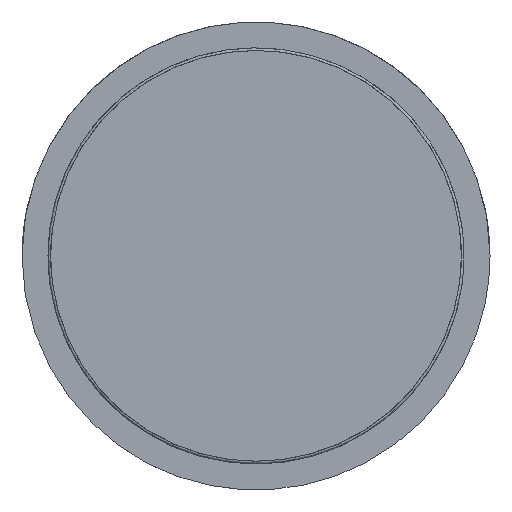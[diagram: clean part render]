
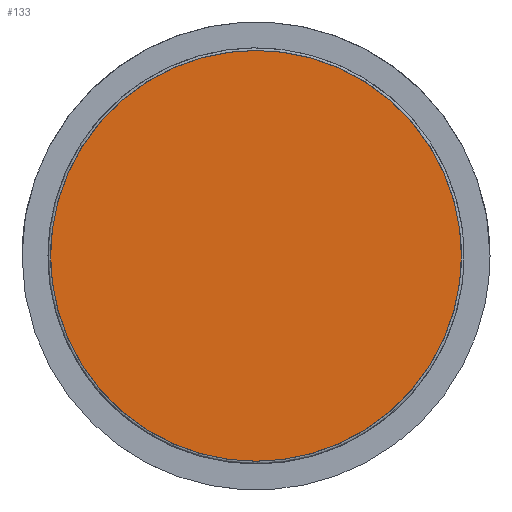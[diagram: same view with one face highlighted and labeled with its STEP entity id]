
A CAD part, top view. The second image highlights one B-rep face of the part: STEP entity #133.
In plain terms, the highlighted free-form (B-spline) face has degree [1, 1] with [2, 2] control points.
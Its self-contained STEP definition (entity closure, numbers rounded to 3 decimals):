
#20=B_SPLINE_SURFACE_WITH_KNOTS('',1,1,((#5417,#5418),(#5419,#5420)),
 .UNSPECIFIED.,.F.,.F.,.F.,(2,2),(2,2),(-81.6,81.6),(-81.6,81.6),
 .UNSPECIFIED.);
#133=ADVANCED_FACE('',(#230),#20,.T.);
#230=FACE_OUTER_BOUND('',#327,.T.);
#327=EDGE_LOOP('',(#651,#652));
#651=ORIENTED_EDGE('',*,*,#2223,.T.);
#652=ORIENTED_EDGE('',*,*,#2224,.T.);
#1027=PCURVE('',#20,#1403);
#1028=PCURVE('',#20,#1404);
#1029=PCURVE('',#2599,#1405);
#1057=PCURVE('',#2603,#1433);
#1403=DEFINITIONAL_REPRESENTATION('',(#2366),#6082);
#1404=DEFINITIONAL_REPRESENTATION('',(#2368),#6082);
#1405=DEFINITIONAL_REPRESENTATION('',(#1825),#6082);
#1433=DEFINITIONAL_REPRESENTATION('',(#1845),#6082);
#1825=B_SPLINE_CURVE_WITH_KNOTS('',1,(#5623,#5624),.UNSPECIFIED.,.F.,.F.,
(2,2),(-248.185,0.),.UNSPECIFIED.);
#1845=B_SPLINE_CURVE_WITH_KNOTS('',1,(#5779,#5780),.UNSPECIFIED.,.F.,.F.,
(2,2),(-496.371,-248.185),.UNSPECIFIED.);
#2035=SURFACE_CURVE('',#2365,(#1027,#1057),.PCURVE_S1.);
#2036=SURFACE_CURVE('',#2367,(#1028,#1029),.PCURVE_S1.);
#2223=EDGE_CURVE('',#2502,#2503,#2035,.T.);
#2224=EDGE_CURVE('',#2503,#2502,#2036,.T.);
#2365=(
BOUNDED_CURVE()
B_SPLINE_CURVE(2,(#5603,#5604,#5605,#5606,#5607),.UNSPECIFIED.,.F.,.F.)
B_SPLINE_CURVE_WITH_KNOTS((3,2,3),(-496.371,-372.278,
-248.185),.UNSPECIFIED.)
CURVE()
GEOMETRIC_REPRESENTATION_ITEM()
RATIONAL_B_SPLINE_CURVE((1.,0.707,1.,0.707,1.))
REPRESENTATION_ITEM('')
);
#2366=(
BOUNDED_CURVE()
B_SPLINE_CURVE(2,(#5608,#5609,#5610,#5611,#5612),.UNSPECIFIED.,.F.,.F.)
B_SPLINE_CURVE_WITH_KNOTS((3,2,3),(-496.371,-372.278,
-248.185),.UNSPECIFIED.)
CURVE()
GEOMETRIC_REPRESENTATION_ITEM()
RATIONAL_B_SPLINE_CURVE((1.,0.707,1.,0.707,1.))
REPRESENTATION_ITEM('')
);
#2367=(
BOUNDED_CURVE()
B_SPLINE_CURVE(2,(#5613,#5614,#5615,#5616,#5617),.UNSPECIFIED.,.F.,.F.)
B_SPLINE_CURVE_WITH_KNOTS((3,2,3),(-248.185,-124.093,
0.),.UNSPECIFIED.)
CURVE()
GEOMETRIC_REPRESENTATION_ITEM()
RATIONAL_B_SPLINE_CURVE((1.,0.707,1.,0.707,1.))
REPRESENTATION_ITEM('')
);
#2368=(
BOUNDED_CURVE()
B_SPLINE_CURVE(2,(#5618,#5619,#5620,#5621,#5622),.UNSPECIFIED.,.F.,.F.)
B_SPLINE_CURVE_WITH_KNOTS((3,2,3),(-248.185,-124.093,
0.),.UNSPECIFIED.)
CURVE()
GEOMETRIC_REPRESENTATION_ITEM()
RATIONAL_B_SPLINE_CURVE((1.,0.707,1.,0.707,1.))
REPRESENTATION_ITEM('')
);
#2502=VERTEX_POINT('',#5521);
#2503=VERTEX_POINT('',#5522);
#2599=(
BOUNDED_SURFACE()
B_SPLINE_SURFACE(2,2,((#5421,#5422,#5423),(#5424,#5425,#5426),(#5427,#5428,
#5429),(#5430,#5431,#5432),(#5433,#5434,#5435)),.UNSPECIFIED.,.F.,.F.,.F.)
B_SPLINE_SURFACE_WITH_KNOTS((3,2,3),(3,3),(0.,124.093,248.185),
(0.,1.571),.UNSPECIFIED.)
GEOMETRIC_REPRESENTATION_ITEM()
RATIONAL_B_SPLINE_SURFACE(((1.,0.707,1.),(0.707,
0.5,0.707),(1.,0.707,1.),(0.707,
0.5,0.707),(1.,0.707,1.)))
REPRESENTATION_ITEM('')
SURFACE()
);
#2603=(
BOUNDED_SURFACE()
B_SPLINE_SURFACE(2,2,((#5478,#5479,#5480),(#5481,#5482,#5483),(#5484,#5485,
#5486),(#5487,#5488,#5489),(#5490,#5491,#5492)),.UNSPECIFIED.,.F.,.F.,.F.)
B_SPLINE_SURFACE_WITH_KNOTS((3,2,3),(3,3),(248.185,372.278,
496.371),(0.,1.571),.UNSPECIFIED.)
GEOMETRIC_REPRESENTATION_ITEM()
RATIONAL_B_SPLINE_SURFACE(((1.,0.707,1.),(0.707,
0.5,0.707),(1.,0.707,1.),(0.707,
0.5,0.707),(1.,0.707,1.)))
REPRESENTATION_ITEM('')
SURFACE()
);
#5417=CARTESIAN_POINT('',(-81.6,-81.6,31.));
#5418=CARTESIAN_POINT('',(-81.6,81.6,31.));
#5419=CARTESIAN_POINT('',(81.6,-81.6,31.));
#5420=CARTESIAN_POINT('',(81.6,81.6,31.));
#5421=CARTESIAN_POINT('',(79.,0.,31.));
#5422=CARTESIAN_POINT('',(80.,0.,31.));
#5423=CARTESIAN_POINT('',(80.,0.,30.));
#5424=CARTESIAN_POINT('',(79.,-79.,31.));
#5425=CARTESIAN_POINT('',(80.,-80.,31.));
#5426=CARTESIAN_POINT('',(80.,-80.,30.));
#5427=CARTESIAN_POINT('',(0.,-79.,31.));
#5428=CARTESIAN_POINT('',(0.,-80.,31.));
#5429=CARTESIAN_POINT('',(0.,-80.,30.));
#5430=CARTESIAN_POINT('',(-79.,-79.,31.));
#5431=CARTESIAN_POINT('',(-80.,-80.,31.));
#5432=CARTESIAN_POINT('',(-80.,-80.,30.));
#5433=CARTESIAN_POINT('',(-79.,0.,31.));
#5434=CARTESIAN_POINT('',(-80.,0.,31.));
#5435=CARTESIAN_POINT('',(-80.,0.,30.));
#5478=CARTESIAN_POINT('',(-79.,0.,31.));
#5479=CARTESIAN_POINT('',(-80.,0.,31.));
#5480=CARTESIAN_POINT('',(-80.,0.,30.));
#5481=CARTESIAN_POINT('',(-79.,79.,31.));
#5482=CARTESIAN_POINT('',(-80.,80.,31.));
#5483=CARTESIAN_POINT('',(-80.,80.,30.));
#5484=CARTESIAN_POINT('',(0.,79.,31.));
#5485=CARTESIAN_POINT('',(0.,80.,31.));
#5486=CARTESIAN_POINT('',(0.,80.,30.));
#5487=CARTESIAN_POINT('',(79.,79.,31.));
#5488=CARTESIAN_POINT('',(80.,80.,31.));
#5489=CARTESIAN_POINT('',(80.,80.,30.));
#5490=CARTESIAN_POINT('',(79.,0.,31.));
#5491=CARTESIAN_POINT('',(80.,0.,31.));
#5492=CARTESIAN_POINT('',(80.,0.,30.));
#5521=CARTESIAN_POINT('',(79.,0.,31.));
#5522=CARTESIAN_POINT('',(-79.,0.,31.));
#5603=CARTESIAN_POINT('',(79.,0.,31.));
#5604=CARTESIAN_POINT('',(79.,79.,31.));
#5605=CARTESIAN_POINT('',(0.,79.,31.));
#5606=CARTESIAN_POINT('',(-79.,79.,31.));
#5607=CARTESIAN_POINT('',(-79.,0.,31.));
#5608=CARTESIAN_POINT('',(79.,0.));
#5609=CARTESIAN_POINT('',(79.,79.));
#5610=CARTESIAN_POINT('',(0.,79.));
#5611=CARTESIAN_POINT('',(-79.,79.));
#5612=CARTESIAN_POINT('',(-79.,0.));
#5613=CARTESIAN_POINT('',(-79.,0.,31.));
#5614=CARTESIAN_POINT('',(-79.,-79.,31.));
#5615=CARTESIAN_POINT('',(0.,-79.,31.));
#5616=CARTESIAN_POINT('',(79.,-79.,31.));
#5617=CARTESIAN_POINT('',(79.,0.,31.));
#5618=CARTESIAN_POINT('',(-79.,0.));
#5619=CARTESIAN_POINT('',(-79.,-79.));
#5620=CARTESIAN_POINT('',(0.,-79.));
#5621=CARTESIAN_POINT('',(79.,-79.));
#5622=CARTESIAN_POINT('',(79.,0.));
#5623=CARTESIAN_POINT('',(248.185,0.));
#5624=CARTESIAN_POINT('',(0.,0.));
#5779=CARTESIAN_POINT('',(496.371,0.));
#5780=CARTESIAN_POINT('',(248.185,0.));
#6082=(
GEOMETRIC_REPRESENTATION_CONTEXT(2)
PARAMETRIC_REPRESENTATION_CONTEXT()
REPRESENTATION_CONTEXT('pspace','')
);
